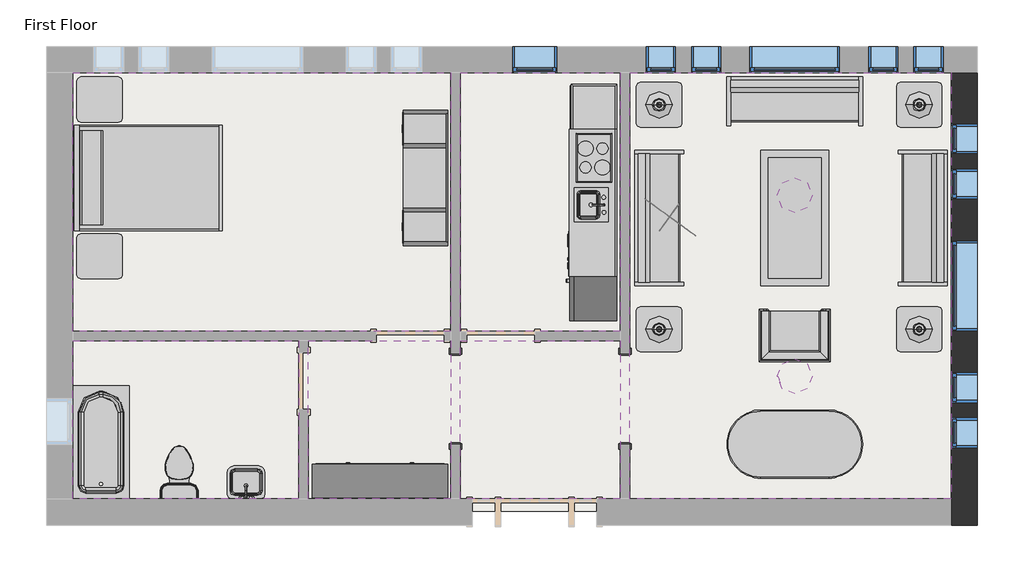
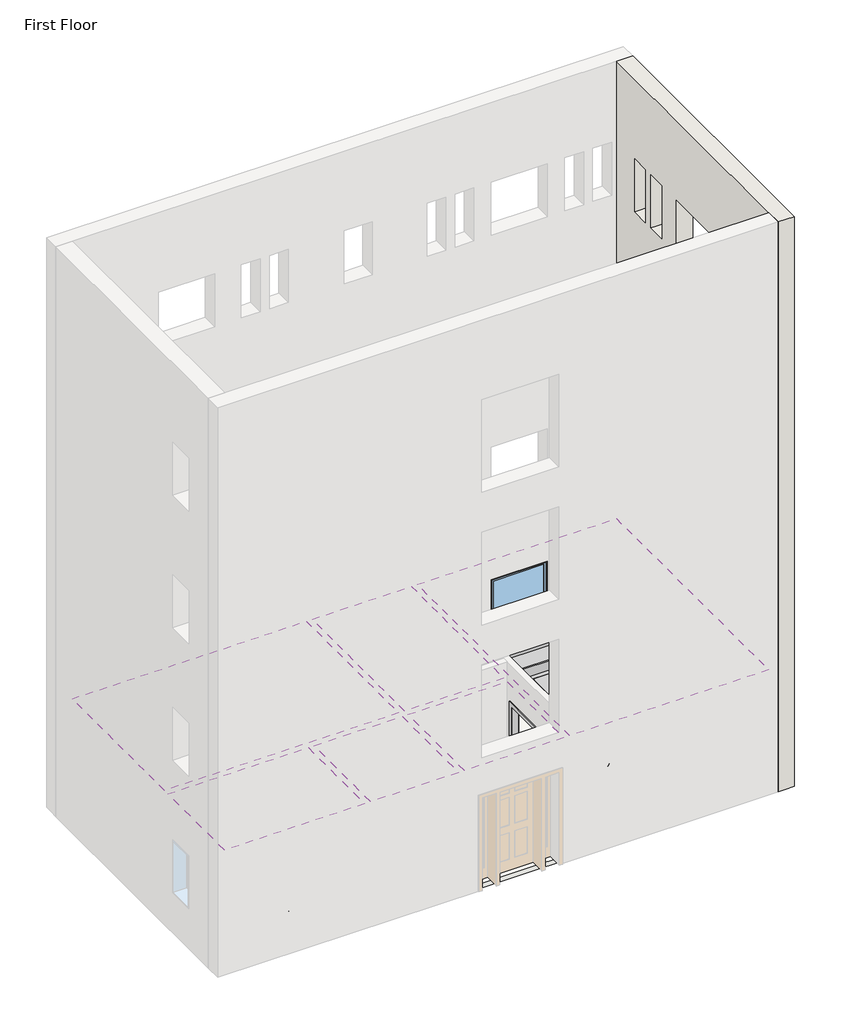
# One storey, part 2 of 2: 15 furniture elements, 11 windows, 6 coverings, 6 light fixtures, 4 proxies, 3 flow terminals, 1 slab, 1 wall.
"""IFC4 building model written with IfcOpenShell, lengths in millimetres."""

from ifc_helpers import new_model, si_unit, frame, origin, place, context, project, spatial, polyline, outline, extrude, faceted_brep, transform, mapped, element, save
from components import proxy_64a468c4, proxy_f44482cc, rpc_female_69e001fa, flow_terminal_0aeb31e3, toilet_domestic_3d_toilet_domestic_3d_f7549cf7, toilet_domestic_3d_toilet_domestic_3d_183bbd19, tub_rectangular_3d_tub_rectangular_3d_5e45a89b, furniture_096e7f55, chair_corbu_chair_corbu_2764bdef, furniture_7c473f12, furniture_ddc78764, furniture_4ef38d96, furniture_cd93a443, furniture_2c34a4f9, furniture_3a588284, furniture_1befe2a2, pendant_light_disk_100w_120v_c68bffb6, table_lamp_standard_60w_120v_6e8cd8b1, window_da97879f, window_d61ef850, window_60baf983, window_6eb97611

model = new_model("IFC4")

# Units and contexts
model_context = context("Model", 3, world=origin())
ifc_project = project(units=[si_unit("LENGTHUNIT", "METRE", prefix="MILLI")], contexts=[model_context])

# Site, building, storey
site = spatial("IfcSite", under=ifc_project)
building = spatial("IfcBuilding", under=site)
storey = spatial("IfcBuildingStorey", under=building, Name="First Floor", Elevation=0.0)

# Proxies
placement = place(None, origin())
proxy_shape = proxy_64a468c4(model_context)
element("IfcBuildingElementProxy", 1, Name="Kitchenette - Medium : 8'6\"", ObjectType="Kitchenette - Medium : 8'6\"", at=placement, inside=storey, context=model_context, shape_type="MappedRepresentation", body=[
    mapped(proxy_shape, transform((-3887.7589563, 8837.7956433, 0.0), x_axis=(0.0, -1.0, 0.0), y_axis=(1.0, 0.0, 0.0), z_axis=(0.0, 0.0, 1.0))),
])
proxy_2_shape = proxy_f44482cc(model_context)
element("IfcBuildingElementProxy", 2, Name="Opening-Cased : 48\" x 84\"", ObjectType="Opening-Cased : 48\" x 84\"", at=placement, inside=storey, context=model_context, shape_type="MappedRepresentation", body=[
    mapped(proxy_2_shape, transform((-3773.4589563, 5882.4203434, 0.0), x_axis=(0.0, 1.0, 0.0), y_axis=(-1.0, 0.0, 0.0), z_axis=(0.0, 0.0, 1.0))),
])
element("IfcBuildingElementProxy", 3, Name="Opening-Cased : 48\" x 84\"", ObjectType="Opening-Cased : 48\" x 84\"", at=placement, inside=storey, context=model_context, shape_type="MappedRepresentation", body=[
    mapped(proxy_2_shape, transform((-6059.4589563, 5866.04303, 0.0), x_axis=(0.0, -1.0, 0.0), y_axis=(1.0, 0.0, 0.0), z_axis=(0.0, 0.0, 1.0))),
])
rpc_female_shape = rpc_female_69e001fa(model_context)
element("IfcBuildingElementProxy", 4, Name="RPC Female : Cynthia", ObjectType="RPC Female : Cynthia", at=placement, inside=storey, context=model_context, shape_type="MappedRepresentation", body=[
    mapped(rpc_female_shape, transform((-3048.0, 8229.6, 0.0), x_axis=(0.5877852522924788, 0.8090169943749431, 0.0), y_axis=(-0.8090169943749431, 0.5877852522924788, 0.0), z_axis=(0.0, 0.0, 1.0))),
])

# Coverings
element("IfcCovering", 5, ObjectType="GWB on Mtl. Stud", at=placement, inside=storey, context=model_context, shape_type="SweptSolid", body=[
    extrude(outline(polyline([(-11217.2464563, 10270.0191867), (-6122.9589563, 10270.0191867), (-6122.9589563, 6787.0441867), (-11217.2464563, 6787.0441867), (-11217.2464563, 10270.0191867)])), frame((0.0, 0.0, 2590.8), z_axis=(0.0, 0.0, 1.0), x_axis=(1.0, 0.0, 0.0)), (0.0, 0.0, 1.0), 107.95),
])
element("IfcCovering", 6, ObjectType="GWB on Mtl. Stud", at=placement, inside=storey, context=model_context, shape_type="SweptSolid", body=[
    extrude(outline(polyline([(-5995.9589563, 6787.0441867), (-5995.9589563, 10270.0191867), (-3836.9589563, 10270.0191867), (-3836.9589563, 6787.0441867), (-5995.9589563, 6787.0441867)])), frame((0.0, 0.0, 2590.8), z_axis=(0.0, 0.0, 1.0), x_axis=(1.0, 0.0, 0.0)), (0.0, 0.0, 1.0), 107.95),
])
element("IfcCovering", 7, ObjectType="GWB on Mtl. Stud", at=placement, inside=storey, context=model_context, shape_type="SweptSolid", body=[
    extrude(outline(polyline([(-3709.9589563, 4526.4441867), (-3709.9589563, 10270.0191867), (622.3285437, 10270.0191867), (622.3285437, 4526.4441867), (-3709.9589563, 4526.4441867)])), frame((0.0, 0.0, 2590.8), z_axis=(0.0, 0.0, 1.0), x_axis=(1.0, 0.0, 0.0)), (0.0, 0.0, 1.0), 107.95),
])
element("IfcCovering", 8, ObjectType="GWB on Mtl. Stud", at=placement, inside=storey, context=model_context, shape_type="SweptSolid", body=[
    extrude(outline(polyline([(-3836.9589563, 4526.4441867), (-5995.9589563, 4526.4441867), (-5995.9589563, 6660.0441867), (-3836.9589563, 6660.0441867), (-3836.9589563, 4526.4441867)])), frame((0.0, 0.0, 2590.8), z_axis=(0.0, 0.0, 1.0), x_axis=(1.0, 0.0, 0.0)), (0.0, 0.0, 1.0), 107.95),
])
element("IfcCovering", 9, ObjectType="GWB on Mtl. Stud", at=placement, inside=storey, context=model_context, shape_type="SweptSolid", body=[
    extrude(outline(polyline([(-6122.9589563, 4526.4441867), (-8042.2464563, 4526.4441867), (-8042.2464563, 6660.0441867), (-6122.9589563, 6660.0441867), (-6122.9589563, 4526.4441867)])), frame((0.0, 0.0, 2590.8), z_axis=(0.0, 0.0, 1.0), x_axis=(1.0, 0.0, 0.0)), (0.0, 0.0, 1.0), 107.95),
])
element("IfcCovering", 10, ObjectType="GWB on Mtl. Stud", at=placement, inside=storey, context=model_context, shape_type="SweptSolid", body=[
    extrude(outline(polyline([(-8169.2464563, 6660.0441867), (-8169.2464563, 4526.4441867), (-11217.2464563, 4526.4441867), (-11217.2464563, 6660.0441867), (-8169.2464563, 6660.0441867)])), frame((0.0, 0.0, 2590.8), z_axis=(0.0, 0.0, 1.0), x_axis=(1.0, 0.0, 0.0)), (0.0, 0.0, 1.0), 107.95),
])

# Flow terminals
flow_terminal_shape = flow_terminal_0aeb31e3(model_context)
element("IfcFlowTerminal", 11, ObjectType="Sink Vanity-Square : 24\" x 19\"", at=placement, inside=storey, context=model_context, shape_type="MappedRepresentation", body=[
    mapped(flow_terminal_shape, transform((-8864.7572157, 4706.5895878, 0.0), x_axis=(-1.0, 0.0, 0.0), y_axis=(0.0, -1.0, 0.0), z_axis=(0.0, 0.0, 1.0))),
])
toilet_domestic_3d_toilet_domestic_3d_shape = toilet_domestic_3d_toilet_domestic_3d_f7549cf7(model_context)
toilet_domestic_3d_toilet_domestic_3d_2_shape = toilet_domestic_3d_toilet_domestic_3d_183bbd19(model_context)
element("IfcFlowTerminal", 12, ObjectType="Toilet-Domestic-3D : Toilet-Domestic-3D", at=placement, inside=storey, context=model_context, shape_type="MappedRepresentation", body=[
    mapped(toilet_domestic_3d_toilet_domestic_3d_shape, transform((-9782.1466587, 4940.866411, 0.0), x_axis=(-1.0000000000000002, 0.0, 0.0), y_axis=(0.0, -1.0000000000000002, 0.0), z_axis=(0.0, 0.0, 1.0))),
    mapped(toilet_domestic_3d_toilet_domestic_3d_2_shape, transform((-9782.1466587, 4940.866411, 0.0), x_axis=(-1.0000000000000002, 0.0, 0.0), y_axis=(0.0, -1.0000000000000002, 0.0), z_axis=(0.0, 0.0, 1.0))),
])
tub_rectangular_3d_tub_rectangular_3d_shape = tub_rectangular_3d_tub_rectangular_3d_5e45a89b(model_context)
element("IfcFlowTerminal", 13, ObjectType="Tub-Rectangular-3D : Tub-Rectangular-3D", at=placement, inside=storey, context=model_context, shape_type="MappedRepresentation", body=[
    mapped(tub_rectangular_3d_tub_rectangular_3d_shape, transform((-11393.4589563, 5637.0471554, 0.0), x_axis=(0.0, 1.0, 0.0), y_axis=(-1.0, 0.0, 0.0), z_axis=(0.0, 0.0, 1.0))),
])

# Furniture
furniture_shape = furniture_096e7f55(model_context)
element("IfcFurniture", 14, ObjectType="Bed-Shaker : Double 56\" x 78\"", at=placement, inside=storey, context=model_context, shape_type="MappedRepresentation", body=[
    mapped(furniture_shape, transform((-11183.1982802, 8871.8755561, 0.0), x_axis=(0.0, 1.0, 0.0), y_axis=(-1.0, 0.0, 0.0), z_axis=(0.0, 0.0, 1.0))),
])
chair_corbu_chair_corbu_shape = chair_corbu_chair_corbu_2764bdef(model_context)
element("IfcFurniture", 15, ObjectType="Chair-Corbu : Chair-Corbu", at=placement, inside=storey, context=model_context, shape_type="MappedRepresentation", body=[
    mapped(chair_corbu_chair_corbu_shape, transform((-914.0851858, 7193.4962359, 0.0), x_axis=(-1.0, 0.0, 0.0), y_axis=(0.0, -1.0, 0.0), z_axis=(0.0, 0.0, 1.0))),
])
furniture_2_shape = furniture_7c473f12(model_context)
element("IfcFurniture", 16, ObjectType="Dresser : 72\" x 60\" x 18\"", at=placement, inside=storey, context=model_context, shape_type="MappedRepresentation", body=[
    mapped(furniture_2_shape, transform((-7344.6522161, 4404.5812326, 0.0), x_axis=(-1.0, 0.0, 0.0), y_axis=(0.0, -1.0, 0.0), z_axis=(0.0, 0.0, 1.0))),
])
furniture_3_shape = furniture_ddc78764(model_context)
element("IfcFurniture", 17, ObjectType="Entertainment Center : 72\" x 72\" x 24\"", at=placement, inside=storey, context=model_context, shape_type="MappedRepresentation", body=[
    mapped(furniture_3_shape, transform((-6059.4589563, 8852.8255561, 0.0), x_axis=(0.0, -1.0, 0.0), y_axis=(1.0, 0.0, 0.0), z_axis=(0.0, 0.0, 1.0))),
])
furniture_4_shape = furniture_4ef38d96(model_context)
element("IfcFurniture", 18, ObjectType="Sofa : 72\"", at=placement, inside=storey, context=model_context, shape_type="MappedRepresentation", body=[
    mapped(furniture_4_shape, transform((-1557.8294481, 9741.2775883, 0.0), x_axis=(1.0, 0.0, 0.0), y_axis=(0.0, 1.0, 0.0), z_axis=(0.0, 0.0, 1.0))),
])
element("IfcFurniture", 19, ObjectType="Sofa : 72\"", at=placement, inside=storey, context=model_context, shape_type="MappedRepresentation", body=[
    mapped(furniture_4_shape, transform((93.5869453, 8383.0021785, 0.0), x_axis=(0.0, -1.0, 0.0), y_axis=(1.0, 0.0, 0.0), z_axis=(0.0, 0.0, 1.0))),
])
element("IfcFurniture", 20, ObjectType="Sofa : 72\"", at=placement, inside=storey, context=model_context, shape_type="MappedRepresentation", body=[
    mapped(furniture_4_shape, transform((-3170.104858, 8242.2611949, 0.0), x_axis=(0.0, 1.0, 0.0), y_axis=(-1.0, 0.0, 0.0), z_axis=(0.0, 0.0, 1.0))),
])
furniture_5_shape = furniture_cd93a443(model_context)
element("IfcFurniture", 21, ObjectType="Table-Coffee : 36\" x 72\" x 18\"", at=placement, inside=storey, context=model_context, shape_type="MappedRepresentation", body=[
    mapped(furniture_5_shape, transform((-1582.6700341, 8330.8974534, 0.0), x_axis=(0.0, -1.0, 0.0), y_axis=(1.0, 0.0, 0.0), z_axis=(0.0, 0.0, 1.0))),
])
furniture_6_shape = furniture_2c34a4f9(model_context)
element("IfcFurniture", 22, ObjectType="Table-Dining Oval : 36\" x 72\"", at=placement, inside=storey, context=model_context, shape_type="MappedRepresentation", body=[
    mapped(furniture_6_shape, transform((-1085.6392842, 5622.7300473, 0.0), x_axis=(1.0, 0.0, 0.0), y_axis=(0.0, 1.0, 0.0), z_axis=(0.0, 0.0, 1.0))),
])
furniture_7_shape = furniture_3a588284(model_context)
element("IfcFurniture", 23, ObjectType="Table-End : 24\" x 24\"", at=placement, inside=storey, context=model_context, shape_type="MappedRepresentation", body=[
    mapped(furniture_7_shape, transform((-119.5925866, 9684.2316867, 0.0), x_axis=(1.0, 0.0, 0.0), y_axis=(0.0, 1.0, 0.0), z_axis=(0.0, 0.0, 1.0))),
])
element("IfcFurniture", 24, ObjectType="Table-End : 24\" x 24\"", at=placement, inside=storey, context=model_context, shape_type="MappedRepresentation", body=[
    mapped(furniture_7_shape, transform((-3624.7925866, 9684.2316867, 0.0), x_axis=(1.0, 0.0, 0.0), y_axis=(0.0, 1.0, 0.0), z_axis=(0.0, 0.0, 1.0))),
])
element("IfcFurniture", 25, ObjectType="Table-End : 24\" x 24\"", at=placement, inside=storey, context=model_context, shape_type="MappedRepresentation", body=[
    mapped(furniture_7_shape, transform((-3624.7925866, 6660.0441867, 0.0), x_axis=(1.0, 0.0, 0.0), y_axis=(0.0, 1.0, 0.0), z_axis=(0.0, 0.0, 1.0))),
])
element("IfcFurniture", 26, ObjectType="Table-End : 24\" x 24\"", at=placement, inside=storey, context=model_context, shape_type="MappedRepresentation", body=[
    mapped(furniture_7_shape, transform((-119.5925866, 6660.0441867, 0.0), x_axis=(1.0, 0.0, 0.0), y_axis=(0.0, 1.0, 0.0), z_axis=(0.0, 0.0, 1.0))),
])
element("IfcFurniture", 27, ObjectType="Table-End : 24\" x 24\"", at=placement, inside=storey, context=model_context, shape_type="MappedRepresentation", body=[
    mapped(furniture_7_shape, transform((-11164.2346356, 9756.0737357, 0.0), x_axis=(1.0, 0.0, 0.0), y_axis=(0.0, 1.0, 0.0), z_axis=(0.0, 0.0, 1.0))),
])
furniture_8_shape = furniture_1befe2a2(model_context)
element("IfcFurniture", 28, ObjectType="Table-End : 24\" x 24\"", at=placement, inside=storey, context=model_context, shape_type="MappedRepresentation", body=[
    mapped(furniture_8_shape, transform((-11164.2346356, 7949.5773764, 0.0), x_axis=(1.0, 0.0, 0.0), y_axis=(0.0, 1.0, 0.0), z_axis=(0.0, 0.0, 1.0))),
])

# Light fixtures
pendant_light_disk_100w_120v_shape = pendant_light_disk_100w_120v_c68bffb6(model_context)
element("IfcLightFixture", 29, ObjectType="Pendant Light - Disk : 100W - 120V", at=placement, inside=storey, context=model_context, shape_type="MappedRepresentation", body=[
    mapped(pendant_light_disk_100w_120v_shape, transform((-1487.4589563, 8617.4316867, 152.3999938), x_axis=(1.0, 0.0, 0.0), y_axis=(0.0, 1.0, 0.0), z_axis=(0.0, 0.0, 1.0))),
])
element("IfcLightFixture", 30, ObjectType="Pendant Light - Disk : 100W - 120V", at=placement, inside=storey, context=model_context, shape_type="MappedRepresentation", body=[
    mapped(pendant_light_disk_100w_120v_shape, transform((-1487.4589563, 6179.0316867, 152.3999938), x_axis=(1.0, 0.0, 0.0), y_axis=(0.0, 1.0, 0.0), z_axis=(0.0, 0.0, 1.0))),
])
table_lamp_standard_60w_120v_shape = table_lamp_standard_60w_120v_6e8cd8b1(model_context)
element("IfcLightFixture", 31, ObjectType="Table Lamp - Standard : 60W - 120V", at=placement, inside=storey, context=model_context, shape_type="MappedRepresentation", body=[
    mapped(table_lamp_standard_60w_120v_shape, transform((188.9410437, 6812.4441867, 381.0), x_axis=(1.0, 0.0, 0.0), y_axis=(0.0, 1.0, 0.0), z_axis=(0.0, 0.0, 1.0))),
])
element("IfcLightFixture", 32, ObjectType="Table Lamp - Standard : 60W - 120V", at=placement, inside=storey, context=model_context, shape_type="MappedRepresentation", body=[
    mapped(table_lamp_standard_60w_120v_shape, transform((188.9410437, 9836.6316867, 381.0), x_axis=(1.0, 0.0, 0.0), y_axis=(0.0, 1.0, 0.0), z_axis=(0.0, 0.0, 1.0))),
])
element("IfcLightFixture", 33, ObjectType="Table Lamp - Standard : 60W - 120V", at=placement, inside=storey, context=model_context, shape_type="MappedRepresentation", body=[
    mapped(table_lamp_standard_60w_120v_shape, transform((-3316.2589563, 9836.6316867, 381.0), x_axis=(1.0, 0.0, 0.0), y_axis=(0.0, 1.0, 0.0), z_axis=(0.0, 0.0, 1.0))),
])
element("IfcLightFixture", 34, ObjectType="Table Lamp - Standard : 60W - 120V", at=placement, inside=storey, context=model_context, shape_type="MappedRepresentation", body=[
    mapped(table_lamp_standard_60w_120v_shape, transform((-3316.2589563, 6812.4441867, 381.0), x_axis=(1.0, 0.0, 0.0), y_axis=(0.0, 1.0, 0.0), z_axis=(0.0, 0.0, 1.0))),
])

# Slab
element("IfcSlab", 35, ObjectType="LW Concrete on Metal Deck", at=placement, inside=storey, context=model_context, shape_type="SweptSolid", body=[
    extrude(outline(polyline([(787.4285437, 10435.1191867), (787.4285437, 4361.3441867), (-11382.3464563, 4361.3441867), (-11382.3464563, 10435.1191867), (787.4285437, 10435.1191867)])), frame((0.0, 0.0, -104.775), z_axis=(0.0, 0.0, 1.0), x_axis=(1.0, 0.0, 0.0)), (0.0, 0.0, 1.0), 104.775),
])

# Wall
element("IfcWall", 36, ObjectType="Exterior - Brick on Mtl. Stud", at=placement, inside=storey, context=model_context, shape_type="Brep", body=[
    faceted_brep([(622.3285437, 10270.0191867, 0.0), (622.3285437, 4526.4441867, 0.0), (622.3285437, 4361.3441867, 0.0), (622.3285437, 4174.0191867, 0.0), (622.3285437, 4174.0191867, 13106.4), (622.3285437, 4526.4441867, 13106.4), (622.3285437, 10270.0191867, 13106.4), (622.3285437, 8007.8316867, 2133.6), (622.3285437, 6788.6316867, 2133.6), (622.3285437, 6788.6316867, 914.4), (622.3285437, 8007.8316867, 914.4), (622.3285437, 9582.6316867, 2133.6), (622.3285437, 9176.2316867, 2133.6), (622.3285437, 9176.2316867, 914.4), (622.3285437, 9582.6316867, 914.4), (622.3285437, 8973.0316867, 2133.6), (622.3285437, 8566.6316867, 2133.6), (622.3285437, 8566.6316867, 914.4), (622.3285437, 8973.0316867, 914.4), (622.3285437, 5213.8316867, 2133.6), (622.3285437, 5213.8316867, 914.4), (622.3285437, 5620.2316867, 914.4), (622.3285437, 5620.2316867, 2133.6), (622.3285437, 5823.4316867, 2133.6), (622.3285437, 5823.4316867, 914.4), (622.3285437, 6229.8316867, 914.4), (622.3285437, 6229.8316867, 2133.6), (622.3285437, 8007.8316867, 11277.6), (622.3285437, 6788.6316867, 11277.6), (622.3285437, 6788.6316867, 10058.4), (622.3285437, 8007.8316867, 10058.4), (622.3285437, 9582.6316867, 11277.6), (622.3285437, 9176.2316867, 11277.6), (622.3285437, 9176.2316867, 10058.4), (622.3285437, 9582.6316867, 10058.4), (622.3285437, 8973.0316867, 11277.6), (622.3285437, 8566.6316867, 11277.6), (622.3285437, 8566.6316867, 10058.4), (622.3285437, 8973.0316867, 10058.4), (622.3285437, 5213.8316867, 11277.6), (622.3285437, 5213.8316867, 10058.4), (622.3285437, 5620.2316867, 10058.4), (622.3285437, 5620.2316867, 11277.6), (622.3285437, 5823.4316867, 11277.6), (622.3285437, 5823.4316867, 10058.4), (622.3285437, 6229.8316867, 10058.4), (622.3285437, 6229.8316867, 11277.6), (622.3285437, 8007.8316867, 5181.6), (622.3285437, 6788.6316867, 5181.6), (622.3285437, 6788.6316867, 3962.4), (622.3285437, 8007.8316867, 3962.4), (622.3285437, 9582.6316867, 5181.6), (622.3285437, 9176.2316867, 5181.6), (622.3285437, 9176.2316867, 3962.4), (622.3285437, 9582.6316867, 3962.4), (622.3285437, 8973.0316867, 5181.6), (622.3285437, 8566.6316867, 5181.6), (622.3285437, 8566.6316867, 3962.4), (622.3285437, 8973.0316867, 3962.4), (622.3285437, 5213.8316867, 5181.6), (622.3285437, 5213.8316867, 3962.4), (622.3285437, 5620.2316867, 3962.4), (622.3285437, 5620.2316867, 5181.6), (622.3285437, 5823.4316867, 5181.6), (622.3285437, 5823.4316867, 3962.4), (622.3285437, 6229.8316867, 3962.4), (622.3285437, 6229.8316867, 5181.6), (622.3285437, 8007.8316867, 8229.6), (622.3285437, 6788.6316867, 8229.6), (622.3285437, 6788.6316867, 7010.4), (622.3285437, 8007.8316867, 7010.4), (622.3285437, 9582.6316867, 8229.6), (622.3285437, 9176.2316867, 8229.6), (622.3285437, 9176.2316867, 7010.4), (622.3285437, 9582.6316867, 7010.4), (622.3285437, 8973.0316867, 8229.6), (622.3285437, 8566.6316867, 8229.6), (622.3285437, 8566.6316867, 7010.4), (622.3285437, 8973.0316867, 7010.4), (622.3285437, 5213.8316867, 8229.6), (622.3285437, 5213.8316867, 7010.4), (622.3285437, 5620.2316867, 7010.4), (622.3285437, 5620.2316867, 8229.6), (622.3285437, 5823.4316867, 8229.6), (622.3285437, 5823.4316867, 7010.4), (622.3285437, 6229.8316867, 7010.4), (622.3285437, 6229.8316867, 8229.6), (974.7535437, 10270.0191867, 0.0), (974.7535437, 10270.0191867, 13106.4), (974.7535437, 4174.0191867, 13106.4), (974.7535437, 4174.0191867, 0.0), (974.7535437, 4361.3441867, 0.0), (974.7535437, 8007.8316867, 2133.6), (974.7535437, 8007.8316867, 914.4), (974.7535437, 6788.6316867, 914.4), (974.7535437, 6788.6316867, 2133.6), (974.7535437, 9582.6316867, 2133.6), (974.7535437, 9582.6316867, 914.4), (974.7535437, 9176.2316867, 914.4), (974.7535437, 9176.2316867, 2133.6), (974.7535437, 8973.0316867, 2133.6), (974.7535437, 8973.0316867, 914.4), (974.7535437, 8566.6316867, 914.4), (974.7535437, 8566.6316867, 2133.6), (974.7535437, 5213.8316867, 2133.6), (974.7535437, 5620.2316867, 2133.6), (974.7535437, 5620.2316867, 914.4), (974.7535437, 5213.8316867, 914.4), (974.7535437, 5823.4316867, 2133.6), (974.7535437, 6229.8316867, 2133.6), (974.7535437, 6229.8316867, 914.4), (974.7535437, 5823.4316867, 914.4), (974.7535437, 8007.8316867, 11277.6), (974.7535437, 8007.8316867, 10058.4), (974.7535437, 6788.6316867, 10058.4), (974.7535437, 6788.6316867, 11277.6), (974.7535437, 9582.6316867, 11277.6), (974.7535437, 9582.6316867, 10058.4), (974.7535437, 9176.2316867, 10058.4), (974.7535437, 9176.2316867, 11277.6), (974.7535437, 8973.0316867, 11277.6), (974.7535437, 8973.0316867, 10058.4), (974.7535437, 8566.6316867, 10058.4), (974.7535437, 8566.6316867, 11277.6), (974.7535437, 5213.8316867, 11277.6), (974.7535437, 5620.2316867, 11277.6), (974.7535437, 5620.2316867, 10058.4), (974.7535437, 5213.8316867, 10058.4), (974.7535437, 5823.4316867, 11277.6), (974.7535437, 6229.8316867, 11277.6), (974.7535437, 6229.8316867, 10058.4), (974.7535437, 5823.4316867, 10058.4), (974.7535437, 8007.8316867, 5181.6), (974.7535437, 8007.8316867, 3962.4), (974.7535437, 6788.6316867, 3962.4), (974.7535437, 6788.6316867, 5181.6), (974.7535437, 9582.6316867, 5181.6), (974.7535437, 9582.6316867, 3962.4), (974.7535437, 9176.2316867, 3962.4), (974.7535437, 9176.2316867, 5181.6), (974.7535437, 8973.0316867, 5181.6), (974.7535437, 8973.0316867, 3962.4), (974.7535437, 8566.6316867, 3962.4), (974.7535437, 8566.6316867, 5181.6), (974.7535437, 5213.8316867, 5181.6), (974.7535437, 5620.2316867, 5181.6), (974.7535437, 5620.2316867, 3962.4), (974.7535437, 5213.8316867, 3962.4), (974.7535437, 5823.4316867, 5181.6), (974.7535437, 6229.8316867, 5181.6), (974.7535437, 6229.8316867, 3962.4), (974.7535437, 5823.4316867, 3962.4), (974.7535437, 8007.8316867, 8229.6), (974.7535437, 8007.8316867, 7010.4), (974.7535437, 6788.6316867, 7010.4), (974.7535437, 6788.6316867, 8229.6), (974.7535437, 9582.6316867, 8229.6), (974.7535437, 9582.6316867, 7010.4), (974.7535437, 9176.2316867, 7010.4), (974.7535437, 9176.2316867, 8229.6), (974.7535437, 8973.0316867, 8229.6), (974.7535437, 8973.0316867, 7010.4), (974.7535437, 8566.6316867, 7010.4), (974.7535437, 8566.6316867, 8229.6), (974.7535437, 5213.8316867, 8229.6), (974.7535437, 5620.2316867, 8229.6), (974.7535437, 5620.2316867, 7010.4), (974.7535437, 5213.8316867, 7010.4), (974.7535437, 5823.4316867, 8229.6), (974.7535437, 6229.8316867, 8229.6), (974.7535437, 6229.8316867, 7010.4), (974.7535437, 5823.4316867, 7010.4), (787.4285437, 4174.0191867, 0.0), (787.4285437, 10270.0191867, 0.0), (787.4285437, 4361.3441867, 0.0)], [[[0, 1, 2, 3, 4, 5, 6], [7, 8, 9, 10], [11, 12, 13, 14], [15, 16, 17, 18], [19, 20, 21, 22], [23, 24, 25, 26], [27, 28, 29, 30], [31, 32, 33, 34], [35, 36, 37, 38], [39, 40, 41, 42], [43, 44, 45, 46], [47, 48, 49, 50], [51, 52, 53, 54], [55, 56, 57, 58], [59, 60, 61, 62], [63, 64, 65, 66], [67, 68, 69, 70], [71, 72, 73, 74], [75, 76, 77, 78], [79, 80, 81, 82], [83, 84, 85, 86]], [[87, 88, 89, 90, 91], [92, 93, 94, 95], [96, 97, 98, 99], [100, 101, 102, 103], [104, 105, 106, 107], [108, 109, 110, 111], [112, 113, 114, 115], [116, 117, 118, 119], [120, 121, 122, 123], [124, 125, 126, 127], [128, 129, 130, 131], [132, 133, 134, 135], [136, 137, 138, 139], [140, 141, 142, 143], [144, 145, 146, 147], [148, 149, 150, 151], [152, 153, 154, 155], [156, 157, 158, 159], [160, 161, 162, 163], [164, 165, 166, 167], [168, 169, 170, 171]], [[6, 5, 4, 89, 88]], [[4, 3, 172, 90, 89]], [[0, 6, 88, 87, 173]], [[173, 87, 91, 174]], [[3, 2, 174, 172]], [[174, 91, 90, 172]], [[2, 1, 0, 173, 174]], [[93, 92, 7, 10]], [[94, 93, 10, 9]], [[95, 94, 9, 8]], [[92, 95, 8, 7]], [[97, 96, 11, 14]], [[98, 97, 14, 13]], [[99, 98, 13, 12]], [[96, 99, 12, 11]], [[101, 100, 15, 18]], [[102, 101, 18, 17]], [[103, 102, 17, 16]], [[100, 103, 16, 15]], [[20, 19, 104, 107]], [[21, 20, 107, 106]], [[22, 21, 106, 105]], [[19, 22, 105, 104]], [[24, 23, 108, 111]], [[25, 24, 111, 110]], [[26, 25, 110, 109]], [[23, 26, 109, 108]], [[113, 112, 27, 30]], [[114, 113, 30, 29]], [[115, 114, 29, 28]], [[112, 115, 28, 27]], [[117, 116, 31, 34]], [[118, 117, 34, 33]], [[119, 118, 33, 32]], [[116, 119, 32, 31]], [[121, 120, 35, 38]], [[122, 121, 38, 37]], [[123, 122, 37, 36]], [[120, 123, 36, 35]], [[40, 39, 124, 127]], [[41, 40, 127, 126]], [[42, 41, 126, 125]], [[39, 42, 125, 124]], [[44, 43, 128, 131]], [[45, 44, 131, 130]], [[46, 45, 130, 129]], [[43, 46, 129, 128]], [[133, 132, 47, 50]], [[134, 133, 50, 49]], [[135, 134, 49, 48]], [[132, 135, 48, 47]], [[137, 136, 51, 54]], [[138, 137, 54, 53]], [[139, 138, 53, 52]], [[136, 139, 52, 51]], [[141, 140, 55, 58]], [[142, 141, 58, 57]], [[143, 142, 57, 56]], [[140, 143, 56, 55]], [[60, 59, 144, 147]], [[61, 60, 147, 146]], [[62, 61, 146, 145]], [[59, 62, 145, 144]], [[64, 63, 148, 151]], [[65, 64, 151, 150]], [[66, 65, 150, 149]], [[63, 66, 149, 148]], [[153, 152, 67, 70]], [[154, 153, 70, 69]], [[155, 154, 69, 68]], [[152, 155, 68, 67]], [[157, 156, 71, 74]], [[158, 157, 74, 73]], [[159, 158, 73, 72]], [[156, 159, 72, 71]], [[161, 160, 75, 78]], [[162, 161, 78, 77]], [[163, 162, 77, 76]], [[160, 163, 76, 75]], [[80, 79, 164, 167]], [[81, 80, 167, 166]], [[82, 81, 166, 165]], [[79, 82, 165, 164]], [[84, 83, 168, 171]], [[85, 84, 171, 170]], [[86, 85, 170, 169]], [[83, 86, 169, 168]]]),
])

# Windows
window_shape = window_da97879f(model_context)
element("IfcWindow", 37, ObjectType="Fixed : 16\" x 48\"", at=placement, inside=storey, context=model_context, shape_type="MappedRepresentation", body=[
    mapped(window_shape, transform((-3328.9589563, 10446.2316867, 0.0), x_axis=(-1.0, 0.0, 0.0), y_axis=(0.0, -1.0, 0.0), z_axis=(0.0, 0.0, 1.0))),
])
element("IfcWindow", 38, ObjectType="Fixed : 16\" x 48\"", at=placement, inside=storey, context=model_context, shape_type="MappedRepresentation", body=[
    mapped(window_shape, transform((-2719.3589563, 10446.2316867, 0.0), x_axis=(-1.0, 0.0, 0.0), y_axis=(0.0, -1.0, 0.0), z_axis=(0.0, 0.0, 1.0))),
])
element("IfcWindow", 39, ObjectType="Fixed : 16\" x 48\"", at=placement, inside=storey, context=model_context, shape_type="MappedRepresentation", body=[
    mapped(window_shape, transform((798.5410437, 9417.5316867, 0.0), x_axis=(0.0, 1.0, 0.0), y_axis=(-1.0, 0.0, 0.0), z_axis=(0.0, 0.0, 1.0))),
])
element("IfcWindow", 40, ObjectType="Fixed : 16\" x 48\"", at=placement, inside=storey, context=model_context, shape_type="MappedRepresentation", body=[
    mapped(window_shape, transform((798.5410437, 8807.9316867, 0.0), x_axis=(0.0, 1.0, 0.0), y_axis=(-1.0, 0.0, 0.0), z_axis=(0.0, 0.0, 1.0))),
])
window_2_shape = window_d61ef850(model_context)
element("IfcWindow", 41, ObjectType="Fixed : 16\" x 48\"", at=placement, inside=storey, context=model_context, shape_type="MappedRepresentation", body=[
    mapped(window_2_shape, transform((354.0410437, 10446.2316867, 0.0), x_axis=(1.0, 0.0, 0.0), y_axis=(0.0, 1.0, 0.0), z_axis=(0.0, 0.0, 1.0))),
])
element("IfcWindow", 42, ObjectType="Fixed : 16\" x 48\"", at=placement, inside=storey, context=model_context, shape_type="MappedRepresentation", body=[
    mapped(window_2_shape, transform((-255.5589563, 10446.2316867, 0.0), x_axis=(1.0, 0.0, 0.0), y_axis=(0.0, 1.0, 0.0), z_axis=(0.0, 0.0, 1.0))),
])
element("IfcWindow", 43, ObjectType="Fixed : 16\" x 48\"", at=placement, inside=storey, context=model_context, shape_type="MappedRepresentation", body=[
    mapped(window_2_shape, transform((798.5410437, 5378.9316867, 0.0), x_axis=(0.0, -1.0, 0.0), y_axis=(1.0, 0.0, 0.0), z_axis=(0.0, 0.0, 1.0))),
])
element("IfcWindow", 44, ObjectType="Fixed : 16\" x 48\"", at=placement, inside=storey, context=model_context, shape_type="MappedRepresentation", body=[
    mapped(window_2_shape, transform((798.5410437, 5988.5316867, 0.0), x_axis=(0.0, -1.0, 0.0), y_axis=(1.0, 0.0, 0.0), z_axis=(0.0, 0.0, 1.0))),
])
window_3_shape = window_60baf983(model_context)
element("IfcWindow", 45, ObjectType="Fixed : 24\" x 48\"", at=placement, inside=storey, context=model_context, shape_type="MappedRepresentation", body=[
    mapped(window_3_shape, transform((-5030.7589563, 10446.2316867, 0.0), x_axis=(-1.0, 0.0, 0.0), y_axis=(0.0, -1.0, 0.0), z_axis=(0.0, 0.0, 1.0))),
])
window_4_shape = window_6eb97611(model_context)
element("IfcWindow", 46, ObjectType="Fixed : 48\" x 48\"", at=placement, inside=storey, context=model_context, shape_type="MappedRepresentation", body=[
    mapped(window_4_shape, transform((-1525.5589563, 10446.2316867, 0.0), x_axis=(-1.0, 0.0, 0.0), y_axis=(0.0, -1.0, 0.0), z_axis=(0.0, 0.0, 1.0))),
])
element("IfcWindow", 47, ObjectType="Fixed : 48\" x 48\"", at=placement, inside=storey, context=model_context, shape_type="MappedRepresentation", body=[
    mapped(window_4_shape, transform((798.5410437, 7436.3316867, 0.0), x_axis=(0.0, 1.0, 0.0), y_axis=(-1.0, 0.0, 0.0), z_axis=(0.0, 0.0, 1.0))),
])

save(model, "model.ifc")
